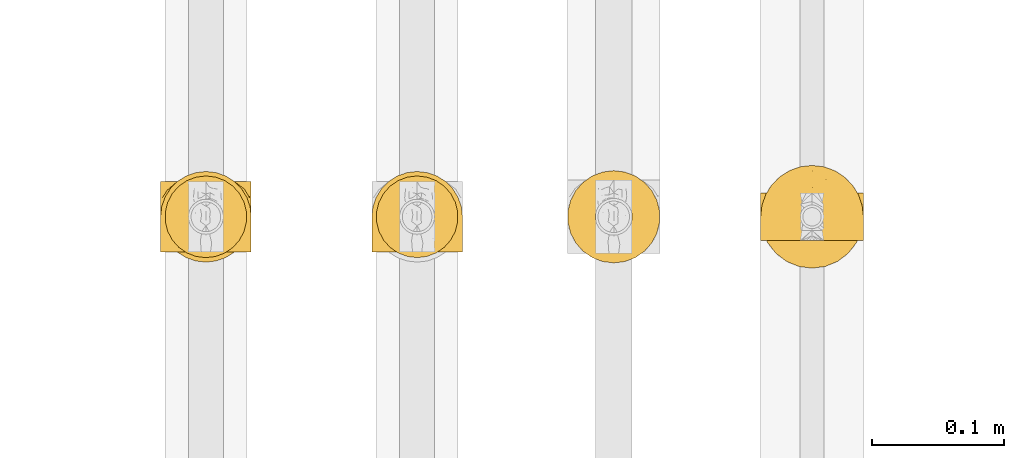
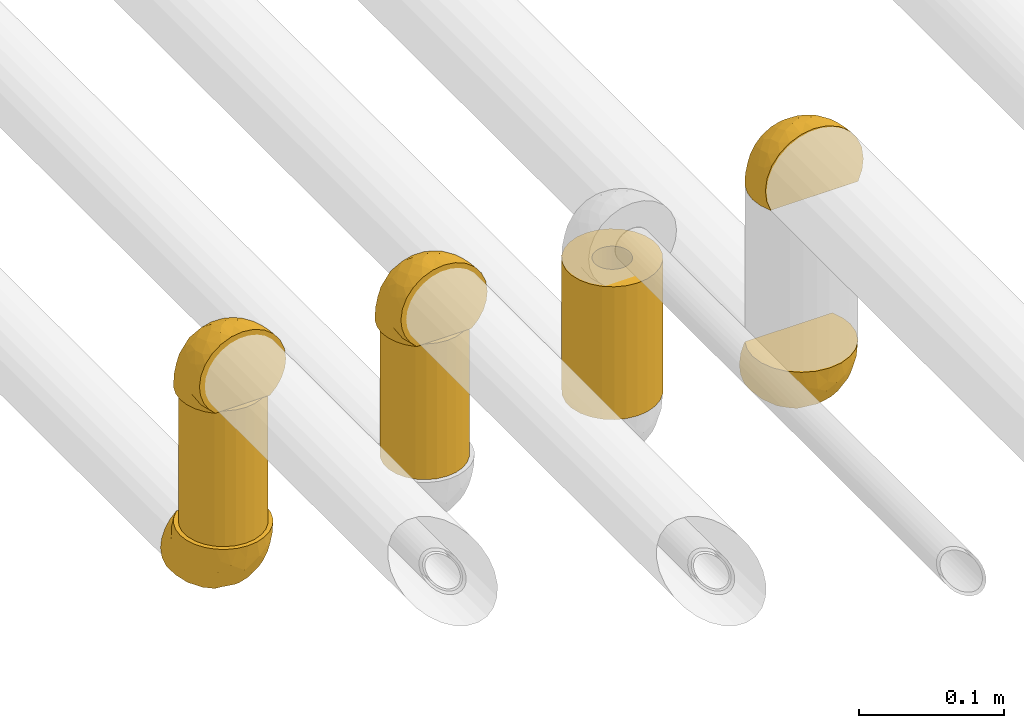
# One storey, part 3 of 83: 8 coverings.
"""IFC2X3 building model written with IfcOpenShell, lengths in millimetres."""

from ifc_helpers import new_model, entity, si_unit, converted_unit, derived_unit, direction, frame, origin_with_axes, origin_2d_with_axis, place, context, subcontext, project, spatial, hollow_circle, extrude, open_shell, surface_model, source, transform, mapped, element, save


model = new_model("IFC2X3")

# Units and contexts
model_context = context("Model", 3, precision=0.01, world=frame((0.0, 4.29681676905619e-09, 0.0)), true_north=direction((4.01073788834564e-13, 1.0)))
plan_context = context("Plan", 3, precision=0.01, world=frame((0.0, 4.29681676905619e-09, 0.0)), true_north=direction((4.01073788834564e-13, 1.0)))
body_context = subcontext(model_context, "Body", "Model", "MODEL_VIEW")
ifc_project = project(units=[converted_unit("PLANEANGLEUNIT", "DEGREE", entity("IfcPositiveLengthMeasure", 0.0174532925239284), si_unit("PLANEANGLEUNIT", "RADIAN"), dimensions=[0, 0, 0, 0, 0, 0, 0]), si_unit("AREAUNIT", "SQUARE_METRE"), si_unit("LENGTHUNIT", "METRE", prefix="MILLI"), si_unit("MASSUNIT", "GRAM", prefix="KILO"), si_unit("POWERUNIT", "WATT"), si_unit("PRESSUREUNIT", "PASCAL"), si_unit("FORCEUNIT", "NEWTON", prefix="KILO"), si_unit("ELECTRICVOLTAGEUNIT", "VOLT"), si_unit("ELECTRICCURRENTUNIT", "AMPERE"), si_unit("THERMODYNAMICTEMPERATUREUNIT", "DEGREE_CELSIUS"), si_unit("TIMEUNIT", "SECOND"), si_unit("VOLUMEUNIT", "CUBIC_METRE"), derived_unit("LINEARVELOCITYUNIT", [(si_unit("LENGTHUNIT", "METRE"), 1), (si_unit("TIMEUNIT", "SECOND"), -1)]), derived_unit("VOLUMETRICFLOWRATEUNIT", [(si_unit("VOLUMEUNIT", "CUBIC_METRE"), 1), (si_unit("TIMEUNIT", "SECOND"), -1)]), derived_unit("THERMALTRANSMITTANCEUNIT", [(si_unit("POWERUNIT", "WATT"), 1), (si_unit("THERMODYNAMICTEMPERATUREUNIT", "KELVIN"), -1), (si_unit("AREAUNIT", "SQUARE_METRE"), -1)]), derived_unit("SOUNDPRESSUREUNIT", [(si_unit("PRESSUREUNIT", "PASCAL"), 1)])], contexts=[model_context, plan_context])

# Site, building, storey
site_placement = place(None, frame((0.0, -4.29681676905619e-09, 0.0), z_axis=(0.0, 0.0, 1.0), x_axis=(1.0, 0.0, 0.0)))
site = spatial("IfcSite", under=ifc_project, at=site_placement, Name="ENGM", CompositionType="ELEMENT")
building_placement = place(site_placement, frame((0.0, 4.29681676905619e-09, 0.0), z_axis=(0.0, 0.0, 1.0), x_axis=(1.0, 0.0, 0.0)))
building = spatial("IfcBuilding", under=site, at=building_placement, Name="TI", CompositionType="ELEMENT")
storey_placement = place(building_placement, frame((0.0, 0.0, 204000.0), z_axis=(0.0, 0.0, 1.0), x_axis=(1.0, 0.0, 0.0)))
storey = spatial("IfcBuildingStorey", under=building, at=storey_placement, Name="Nivå D", CompositionType="ELEMENT", Elevation=204000.0)

# Coverings
shared_shape_1 = source(origin_with_axes(), body_context, "Body", "SurfaceModel", [
    surface_model("IfcShellBasedSurfaceModel", [(26.89082, 26.8, -21.4533), (34.4, 26.8, 0.0), (33.53665, 26.8, -7.65854), (30.99072, 26.8, -14.93103), (-26.583, 26.8, -21.83356), (21.44304, 26.8, -26.899), (14.92062, 26.8, -30.99573), (-14.70935, 26.8, -31.09655), (-21.16359, 26.8, -27.11941), (-7.53901, 26.8, -33.56372), (0.0, 26.8, -34.4), (7.65035, 26.8, -33.53852), (-26.8, 26.583, -21.83356), (-26.8, 21.15599, -27.12534), (-26.8, 14.7018, -31.10012), (-26.8, -8.90338, 33.22785), (-26.8, 26.583, 21.83356), (-26.8, 7.53379, -33.56489), (-26.8, 21.15599, 27.12534), (-26.8, 14.7018, 31.10012), (-26.8, 7.53379, 33.56489), (-26.8, 0.0, 34.4), (-26.8, -29.79127, 17.2), (-26.8, 0.0, -34.4), (-26.8, -8.90338, -33.22785), (-26.8, -17.2, -29.79127), (-26.8, -24.32447, -24.32447), (-26.8, -29.79127, -17.2), (-26.8, -34.4, 0.0), (-26.8, -33.22785, -8.90338), (-26.8, -17.2, 29.79127), (-26.8, -24.32447, 24.32447), (-26.8, -33.22785, 8.90338), (-26.64656, 26.64656, 21.83356), (-26.64656, 26.64656, -21.83356), (-26.583, 26.8, 21.83356), (-3.59052, 13.4, -34.4), (-14.33755, 14.33755, -33.15375), (-20.98278, 20.24865, -29.29104), (-13.4, 3.59052, -34.4), (23.43181, -5.85668, -9.31772), (30.59211, 12.00691, -11.36629), (29.74143, 3.37977, 0.0), (-17.35379, -5.60847, -33.68915), (-10.72157, -3.05952, -33.65653), (-2.19496, -13.46149, -27.70964), (-5.90325, -23.09189, -20.94139), (-14.44362, -19.31464, -27.29136), (-11.50632, -10.12221, -31.78146), (-19.86027, -12.55716, -31.78146), (14.5039, 8.69712, -29.13049), (17.47419, 18.2255, -29.13049), (22.70218, 14.0418, -24.32911), (-8.49526, 8.49526, -34.4), (-1.73573, 4.43438, -33.72277), (-1.40625, 21.55179, -34.4), (21.13117, -4.93531, -15.5496), (-8.95552, -31.11498, -6.38768), (-11.56328, -29.76527, -13.16431), (31.96725, 14.56973, 0.0), (-17.29059, -26.4489, -20.94139), (13.00945, -12.79913, -17.94172), (17.64372, -3.70839, -21.17899), (4.67119, 7.67803, -32.90681), (10.14945, 17.27713, -32.47124), (28.1038, 16.16713, -18.30729), (5.75988, -4.42453, -29.1208), (-1.4374, -2.65193, -32.21392), (20.41295, 4.88172, -23.35949), (24.42026, 4.35073, -18.30729), (16.40522, -14.15163, -10.5905), (-1.3824, -25.73418, -13.68663), (1.8264, -26.29935, -7.71275), (8.10398, -20.63529, -12.38525), (11.69208, -20.10273, -5.98463), (16.47493, -16.47493, 0.0), (23.10818, -6.54758, 0.0), (-14.56973, -31.96725, 0.0), (4.03594, -17.21397, -21.39036), (9.62885, -9.0633, -24.32911), (-21.55179, 1.40625, -34.4), (13.92099, -0.05311, -26.46374), (9.4576, 2.58417, -30.01827), (-3.37977, -29.74143, 0.0), (6.54758, -23.10818, 0.0), (-16.40302, -11.7882, 31.78146), (-8.96499, -31.08424, 6.55564), (10.63139, -19.08757, 11.50781), (23.44486, -5.83859, 9.31385), (22.71205, 14.04293, 24.31983), (28.11122, 16.17091, 18.29685), (26.899, 26.8, 21.44304), (-8.34799, -17.2314, 27.29136), (-13.16926, -25.54575, 20.94139), (1.60724, -19.88713, 20.19204), (14.51664, 8.70018, 29.12392), (17.4853, 18.22796, 29.12392), (10.15899, 17.27639, 32.46794), (17.02293, -8.95279, 17.25897), (-13.98179, -4.14591, 33.74209), (-13.4, 3.59052, 34.4), (-20.1, 1.79526, 34.4), (7.65854, 26.8, 33.53665), (-1.40625, 21.55179, 34.4), (-16.33213, -31.39885, 11.74535), (0.0, 26.8, 34.4), (-18.40196, -20.19695, 27.29136), (14.93103, 26.8, 30.99072), (2.37805, -25.95313, 7.88237), (-5.56785, -27.79838, 13.16431), (30.59671, 12.01158, 11.35688), (1.61546, -9.41417, 28.52205), (-9.49504, -8.67307, 31.98214), (24.43036, 4.35742, 18.29685), (21.4533, 26.8, 26.89082), (30.99573, 26.8, 14.92062), (33.53852, 26.8, 7.65035), (-8.61019, -0.7535, 33.83371), (-2.54483, 2.9265, 33.63096), (-3.59052, 13.4, 34.4), (-8.49526, 8.49526, 34.4), (18.33244, 2.77456, 24.3201), (4.67405, 7.66653, 32.90424), (-20.5196, -5.89205, 33.78227), (9.64914, -9.05591, 24.31984), (7.49925, -1.10027, 29.66678), (2.2383, -14.80321, 24.70771), (-3.35568, -4.38407, 32.15869), (-14.33836, 14.33836, 33.15344), (-20.24021, 20.9835, 29.29463), (-7.52438, 26.8, 33.567), (-14.69425, 26.8, 31.10368), (-21.15177, 26.8, 27.12863)], [open_shell([[[0, 1, 2]], [[0, 2, 3]], [[4, 0, 5]], [[0, 4, 1]], [[4, 5, 6]], [[4, 7, 8]], [[7, 4, 9]], [[10, 9, 4]], [[10, 4, 11]], [[4, 6, 11]], [[12, 13, 14]], [[15, 16, 14]], [[12, 14, 16]], [[14, 17, 15]], [[18, 16, 19]], [[16, 20, 19]], [[20, 16, 21]], [[21, 16, 15]], [[22, 17, 23]], [[24, 25, 26]], [[27, 22, 23]], [[27, 24, 26]], [[28, 27, 29]], [[30, 22, 31]], [[22, 30, 15]], [[22, 28, 32]], [[15, 17, 22]], [[27, 28, 22]], [[23, 24, 27]], [[12, 16, 33]], [[34, 12, 33]], [[35, 4, 33]], [[34, 33, 4]], [[36, 37, 9]], [[14, 38, 37]], [[23, 17, 39]], [[39, 17, 37]], [[14, 13, 38]], [[13, 12, 34]], [[34, 4, 8]], [[37, 38, 7]], [[37, 36, 39]], [[7, 9, 37]], [[9, 10, 36]], [[7, 38, 8]], [[17, 14, 37]], [[34, 8, 38]], [[34, 38, 13]], [[40, 41, 42]], [[43, 39, 44]], [[45, 46, 47]], [[48, 49, 43]], [[50, 51, 52]], [[53, 54, 44]], [[55, 10, 11]], [[41, 40, 56]], [[57, 29, 58]], [[41, 2, 59]], [[60, 27, 26]], [[25, 49, 47]], [[25, 47, 26]], [[27, 60, 58]], [[49, 25, 24]], [[61, 62, 56]], [[63, 36, 64]], [[55, 11, 64]], [[0, 3, 65]], [[52, 5, 0]], [[64, 36, 55]], [[64, 11, 6]], [[51, 64, 6]], [[66, 45, 67]], [[64, 50, 63]], [[68, 69, 62]], [[68, 52, 69]], [[61, 56, 70]], [[57, 71, 72]], [[41, 3, 2]], [[42, 41, 59]], [[69, 65, 41]], [[27, 58, 29]], [[65, 52, 0]], [[73, 74, 72]], [[5, 51, 6]], [[71, 73, 72]], [[75, 40, 76]], [[29, 57, 77]], [[61, 78, 79]], [[44, 54, 67]], [[45, 47, 48]], [[60, 47, 46]], [[24, 23, 80]], [[50, 81, 82]], [[63, 67, 54]], [[2, 1, 59]], [[41, 65, 3]], [[52, 65, 69]], [[52, 51, 5]], [[64, 51, 50]], [[67, 45, 48]], [[45, 79, 78]], [[44, 48, 43]], [[81, 66, 82]], [[77, 57, 83]], [[77, 28, 29]], [[74, 75, 84]], [[84, 83, 72]], [[57, 72, 83]], [[70, 74, 73]], [[84, 72, 74]], [[71, 57, 58]], [[58, 46, 71]], [[78, 71, 46]], [[61, 70, 73]], [[70, 40, 75]], [[73, 71, 78]], [[62, 61, 79]], [[73, 78, 61]], [[45, 78, 46]], [[81, 62, 79]], [[56, 62, 69]], [[66, 81, 79]], [[68, 50, 52]], [[45, 66, 79]], [[82, 67, 63]], [[41, 56, 69]], [[56, 40, 70]], [[62, 81, 68]], [[50, 68, 81]], [[67, 82, 66]], [[63, 54, 36]], [[63, 50, 82]], [[47, 60, 26]], [[58, 60, 46]], [[43, 24, 80]], [[47, 49, 48]], [[24, 43, 49]], [[39, 43, 80]], [[53, 44, 39]], [[67, 48, 44]], [[40, 42, 76]], [[75, 74, 70]], [[36, 54, 53]], [[30, 85, 15]], [[83, 86, 77]], [[87, 75, 88]], [[86, 32, 77]], [[89, 90, 91]], [[92, 93, 94]], [[95, 96, 97]], [[98, 94, 87]], [[99, 100, 101]], [[102, 103, 97]], [[104, 93, 22]], [[102, 105, 103]], [[31, 106, 30]], [[30, 106, 85]], [[107, 102, 97]], [[108, 87, 109]], [[88, 42, 110]], [[92, 111, 112]], [[113, 90, 89]], [[114, 89, 91]], [[32, 86, 104]], [[110, 115, 90]], [[110, 59, 116]], [[114, 107, 96]], [[99, 117, 100]], [[118, 119, 120]], [[121, 113, 89]], [[95, 97, 122]], [[97, 119, 122]], [[115, 110, 116]], [[22, 93, 31]], [[96, 89, 114]], [[88, 110, 113]], [[121, 89, 95]], [[88, 98, 87]], [[115, 91, 90]], [[88, 75, 76]], [[119, 97, 103]], [[85, 99, 123]], [[124, 125, 111]], [[125, 95, 122]], [[94, 93, 109]], [[106, 93, 92]], [[120, 117, 118]], [[125, 124, 121]], [[87, 94, 109]], [[126, 124, 111]], [[108, 109, 86]], [[88, 113, 98]], [[59, 110, 42]], [[59, 1, 116]], [[15, 123, 21]], [[110, 90, 113]], [[97, 96, 107]], [[89, 96, 95]], [[118, 125, 122]], [[117, 120, 100]], [[111, 125, 127]], [[32, 28, 77]], [[84, 108, 83]], [[86, 109, 104]], [[87, 84, 75]], [[83, 108, 86]], [[84, 87, 108]], [[93, 104, 109]], [[22, 32, 104]], [[123, 99, 101]], [[112, 99, 85]], [[121, 98, 113]], [[94, 98, 124]], [[21, 123, 101]], [[85, 123, 15]], [[125, 121, 95]], [[98, 121, 124]], [[112, 111, 127]], [[126, 92, 94]], [[93, 106, 31]], [[85, 106, 92]], [[92, 112, 85]], [[117, 112, 127]], [[112, 117, 99]], [[117, 127, 118]], [[125, 118, 127]], [[119, 118, 122]], [[92, 126, 111]], [[94, 124, 126]], [[76, 42, 88]], [[20, 21, 100]], [[20, 128, 19]], [[19, 128, 129]], [[16, 18, 33]], [[119, 128, 100]], [[119, 105, 130]], [[20, 100, 128]], [[129, 33, 18]], [[129, 128, 131]], [[132, 35, 33]], [[33, 129, 132]], [[19, 129, 18]], [[130, 131, 128]], [[119, 130, 128]], [[131, 132, 129]], [[107, 114, 91]], [[4, 91, 115]], [[107, 91, 102]], [[91, 4, 130]], [[105, 102, 130]], [[102, 91, 130]], [[4, 115, 116]], [[1, 4, 116]], [[130, 132, 131]], [[35, 132, 4]], [[132, 130, 4]]])]),
])
for number, where, z_axis, x_axis in (
    (1, (599571.9743, 696607.72914, 6052.20000000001), (-1.0, 0.0, 0.0), (0.0, -1.0, 0.0)),
    (2, (599571.9743, 696607.72914, 6220.0), (-1.0, 0.0, 0.0), (0.0, 1.0, 0.0)),
    (3, (599732.2743, 696607.72911, 6220.0), (-1.0, 0.0, 0.0), (0.0, 1.0, 0.0)),
):
    element("IfcCovering", number, at=place(storey_placement, frame(where, z_axis=z_axis, x_axis=x_axis)), inside=storey, Name="BI10T - Cellegummi 18-32 mm kalde rør", PredefinedType="INSULATION", context=body_context, shape_type="MappedRepresentation", body=[
        mapped(shared_shape_1, transform((0.0, 0.0, 0.0), scale=1.0)),
    ])
shared_shape_2 = source(origin_with_axes(), body_context, "Body", "SurfaceModel", [
    surface_model("IfcShellBasedSurfaceModel", [(16.92762, 18.0, 35.13482), (24.32205, 18.0, 30.48668), (30.49596, 18.0, 24.31042), (0.0, 18.0, 39.0), (8.68265, 18.0, 38.0212), (-17.65313, 18.0, 34.77595), (-9.0716, 18.0, 37.93028), (-17.65313, 18.0, -34.77595), (38.0212, 18.0, -8.68265), (30.48668, 18.0, -24.32205), (35.13482, 18.0, -16.92762), (16.91582, 18.0, -35.1405), (8.67336, 18.0, -38.02332), (0.0, 18.0, -39.0), (-9.07986, 18.0, -37.9283), (-18.0, 17.65313, 34.77595), (-18.0, 17.65313, -34.77595), (-18.0, 9.07573, -37.92929), (-18.0, 0.0, -39.0), (-18.0, -10.09394, -37.67111), (-18.0, 9.07573, 37.92929), (-18.0, 0.0, 39.0), (-18.0, -19.5, 33.77499), (-18.0, -10.09394, 37.67111), (-18.0, -27.57716, -27.57716), (-18.0, -33.77499, -19.5), (-18.0, -37.67111, -10.09394), (-18.0, -27.57716, 27.57716), (-18.0, -33.77499, 19.5), (-18.0, -37.67111, 10.09394), (-18.0, -39.0, 0.0), (-18.0, -19.5, -33.77499), (-17.75472, 17.75472, 34.77595), (-17.75472, 17.75472, -34.77595), (-10.69693, 8.27754, -38.56024), (-13.43887, 13.4378, -37.25083), (-18.0, 13.87948, -36.16327), (-3.99285, 18.0, -38.52872), (-5.27208, 5.27208, -39.0), (35.07581, 4.32339, -12.8862), (36.44486, 5.15443, 0.0), (-10.74635, -14.11569, -36.0313), (-7.14062, -22.30438, -30.94078), (0.91557, -27.13758, -23.74169), (-9.39098, -30.17764, -23.74169), (-10.11638, -6.44448, -38.23547), (5.42554, -30.40962, -15.51834), (8.91975, -31.09458, -8.81544), (-0.72215, -35.57291, -7.40704), (-3.9434, -34.17081, -14.92465), (11.89905, 10.29643, -36.81332), (18.35467, -18.16043, -20.33964), (22.18548, -9.5792, -24.00244), (26.02833, -11.12519, -17.62569), (-1.55235, 14.25229, -39.0), (28.56689, -12.27186, -10.56569), (-14.25229, 1.55235, -39.0), (24.29328, -1.63402, -26.48413), (28.731, -2.47172, -20.75536), (20.03747, 10.63714, -33.02584), (26.1306, 6.62949, -27.58242), (17.48771, 2.45383, -33.02584), (6.82515, 2.67281, -37.36453), (7.12721, -7.91709, -34.54648), (-0.73871, -3.03295, -37.89712), (24.31042, 18.0, -30.49596), (3.79072, -18.47926, -30.3503), (14.48749, -13.95874, -27.58242), (32.08869, 8.30463, -20.75536), (34.66113, -3.81296, 0.0), (21.99615, -19.90871, -12.00349), (-8.45406, 3.95406, -39.0), (-5.54567, -4.74018, -38.18583), (-11.63604, 2.63604, -39.0), (-3.10471, 10.50457, -39.0), (22.30509, -22.30509, 0.0), (28.48311, -13.05902, 0.0), (14.2339, -25.80417, -14.03794), (17.78336, -25.60215, -6.78283), (9.85809, -21.74688, -24.25823), (-5.15443, -36.44486, 0.0), (12.10287, -2.65598, -34.32848), (17.84887, -5.61422, -29.99364), (39.0, 18.0, 0.0), (-2.79709, -11.20452, -36.0313), (3.81296, -34.66113, 0.0), (13.05902, -28.48311, 0.0), (0.91273, -27.13877, 23.74169), (3.79294, -18.47705, 30.35091), (-7.14148, -22.30461, 30.94078), (-0.72215, -35.57289, 7.40714), (-9.39266, -30.17794, 23.74169), (-3.9445, -34.17111, 14.92465), (35.1405, 18.0, 16.91582), (35.07978, 4.32385, 12.87553), (38.02332, 18.0, 8.67336), (5.42857, -30.40429, 15.52635), (-10.74635, -14.11569, 36.0313), (28.57866, -12.25706, 10.55931), (28.73788, -2.47455, 20.74352), (6.82698, 2.66172, 37.36232), (11.90919, 10.29298, 36.80959), (-3.10471, 10.50457, 39.0), (14.24177, -25.79941, 14.03579), (17.7836, -25.60244, 6.78072), (22.00667, -19.90013, 11.99813), (17.84962, -5.62153, 29.98977), (12.12046, -2.65522, 34.32089), (7.13844, -7.89647, 34.55013), (-0.73859, -3.03309, 37.89708), (-6.03423, -3.68091, 38.40901), (-2.79709, -11.20452, 36.0313), (22.19226, -9.5759, 23.99767), (14.49499, -13.96612, 27.57191), (18.36673, -18.15599, 20.33077), (32.09595, 8.30299, 20.74352), (26.14079, 6.62687, 27.57191), (20.04912, 10.63506, 33.0184), (17.4985, 2.44897, 33.0184), (24.3075, -1.63294, 26.47068), (-10.11638, -6.44448, 38.23547), (-14.25229, 1.55235, 39.0), (9.86568, -21.75613, 24.2432), (-1.55235, 14.25229, 39.0), (8.92002, -31.09382, 8.81775), (-5.27208, 5.27208, 39.0), (-8.45406, 3.95406, 39.0), (-11.63604, 2.63604, 39.0), (25.45146, -12.02518, 17.57382), (-14.54446, 13.3997, 37.02735), (-9.91404, 9.91215, 38.44375), (-18.0, 3.99289, 38.52894), (-13.87942, 18.0, 36.16306)], [open_shell([[[0, 1, 2]], [[3, 4, 5]], [[3, 5, 6]], [[5, 4, 7]], [[7, 8, 9]], [[9, 8, 10]], [[7, 11, 12]], [[7, 13, 14]], [[13, 7, 12]], [[15, 16, 17]], [[18, 19, 17]], [[15, 17, 19]], [[15, 19, 20]], [[20, 19, 21]], [[21, 22, 23]], [[21, 19, 24]], [[24, 25, 21]], [[21, 25, 22]], [[22, 25, 26]], [[27, 22, 28]], [[22, 29, 28]], [[22, 26, 29]], [[26, 30, 29]], [[24, 19, 31]], [[16, 15, 32]], [[33, 16, 32]], [[5, 7, 32]], [[33, 32, 7]], [[34, 35, 14]], [[33, 35, 36]], [[18, 17, 34]], [[33, 7, 35]], [[7, 14, 35]], [[37, 34, 14]], [[17, 36, 35]], [[37, 38, 34]], [[35, 34, 17]], [[16, 33, 36]], [[18, 34, 38]], [[37, 13, 38]], [[39, 8, 40]], [[31, 19, 41]], [[39, 10, 8]], [[42, 43, 44]], [[19, 45, 41]], [[46, 47, 48]], [[48, 26, 49]], [[11, 50, 12]], [[44, 25, 24]], [[24, 31, 42]], [[51, 52, 53]], [[25, 44, 49]], [[12, 54, 13]], [[39, 55, 53]], [[19, 18, 56]], [[57, 58, 52]], [[59, 60, 61]], [[62, 63, 64]], [[11, 59, 50]], [[59, 11, 65]], [[66, 63, 67]], [[60, 65, 9]], [[68, 60, 9]], [[55, 39, 69]], [[57, 60, 58]], [[51, 53, 70]], [[9, 10, 68]], [[43, 42, 66]], [[69, 39, 40]], [[58, 68, 39]], [[25, 49, 26]], [[71, 72, 73]], [[62, 74, 50]], [[50, 54, 12]], [[75, 55, 76]], [[62, 50, 61]], [[77, 78, 47]], [[41, 42, 31]], [[66, 67, 79]], [[46, 77, 47]], [[26, 48, 80]], [[51, 79, 67]], [[73, 72, 45]], [[63, 81, 82]], [[38, 74, 62]], [[8, 83, 40]], [[39, 68, 10]], [[60, 68, 58]], [[60, 59, 65]], [[50, 59, 61]], [[56, 45, 19]], [[42, 41, 84]], [[42, 84, 66]], [[63, 66, 84]], [[84, 45, 72]], [[82, 81, 61]], [[56, 73, 45]], [[38, 64, 71]], [[84, 41, 45]], [[64, 84, 72]], [[62, 64, 38]], [[84, 64, 63]], [[80, 48, 85]], [[80, 30, 26]], [[78, 75, 86]], [[86, 85, 47]], [[48, 47, 85]], [[70, 78, 77]], [[86, 47, 78]], [[46, 48, 49]], [[49, 43, 46]], [[79, 46, 43]], [[51, 70, 77]], [[70, 55, 75]], [[77, 46, 79]], [[52, 51, 67]], [[77, 79, 51]], [[66, 79, 43]], [[82, 52, 67]], [[53, 52, 58]], [[63, 82, 67]], [[57, 61, 60]], [[63, 62, 81]], [[62, 61, 81]], [[39, 53, 58]], [[53, 55, 70]], [[52, 82, 57]], [[61, 57, 82]], [[42, 44, 24]], [[49, 44, 43]], [[50, 74, 54]], [[55, 69, 76]], [[75, 78, 70]], [[71, 64, 72]], [[87, 88, 89]], [[85, 90, 80]], [[91, 92, 87]], [[93, 94, 95]], [[28, 29, 92]], [[90, 96, 92]], [[23, 22, 97]], [[98, 94, 99]], [[100, 101, 102]], [[101, 0, 4]], [[103, 104, 105]], [[22, 27, 89]], [[106, 107, 108]], [[109, 110, 111]], [[27, 28, 91]], [[112, 113, 114]], [[99, 115, 116]], [[1, 116, 2]], [[27, 91, 89]], [[94, 93, 115]], [[94, 40, 95]], [[1, 0, 117]], [[118, 106, 119]], [[118, 101, 100]], [[101, 118, 117]], [[98, 69, 94]], [[106, 113, 112]], [[23, 120, 121]], [[114, 122, 103]], [[88, 108, 111]], [[23, 121, 21]], [[117, 116, 1]], [[75, 98, 105]], [[93, 2, 115]], [[4, 123, 101]], [[116, 115, 2]], [[98, 75, 76]], [[29, 80, 90]], [[90, 124, 96]], [[85, 86, 124]], [[103, 105, 114]], [[87, 122, 88]], [[97, 89, 111]], [[102, 125, 100]], [[109, 126, 110]], [[40, 94, 69]], [[40, 83, 95]], [[94, 115, 99]], [[101, 117, 0]], [[116, 117, 118]], [[89, 97, 22]], [[120, 23, 97]], [[108, 88, 113]], [[111, 89, 88]], [[108, 113, 106]], [[109, 100, 125]], [[121, 120, 127]], [[97, 111, 120]], [[109, 111, 108]], [[126, 109, 125]], [[120, 110, 127]], [[100, 109, 108]], [[29, 30, 80]], [[104, 124, 86]], [[29, 90, 92]], [[105, 104, 75]], [[75, 104, 86]], [[124, 104, 103]], [[124, 103, 96]], [[124, 90, 85]], [[122, 96, 103]], [[87, 92, 96]], [[127, 110, 126]], [[112, 128, 99]], [[105, 98, 128]], [[122, 114, 113]], [[128, 112, 114]], [[99, 116, 119]], [[119, 112, 99]], [[106, 118, 107]], [[118, 100, 107]], [[100, 108, 107]], [[88, 122, 113]], [[122, 87, 96]], [[105, 128, 114]], [[99, 128, 98]], [[118, 119, 116]], [[106, 112, 119]], [[92, 91, 28]], [[89, 91, 87]], [[123, 4, 3]], [[123, 102, 101]], [[76, 69, 98]], [[111, 110, 120]], [[129, 130, 6]], [[125, 130, 131]], [[15, 20, 129]], [[125, 3, 130]], [[3, 6, 130]], [[132, 129, 6]], [[20, 131, 130]], [[132, 32, 129]], [[130, 129, 20]], [[21, 125, 131]], [[15, 129, 32]], [[132, 5, 32]], [[11, 7, 65]], [[7, 9, 65]], [[8, 95, 83]], [[0, 2, 93]], [[93, 7, 4]], [[4, 0, 93]], [[93, 95, 7]], [[95, 8, 7]]])]),
])
covering_1_placement = place(storey_placement, frame((600031.9743, 696607.72914, 6052.20000000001), z_axis=(1.0, 0.0, 0.0), x_axis=(0.0, 0.0, -1.0)))
element("IfcCovering", 4, at=covering_1_placement, inside=storey, Name="BI16T - Rørskål m/Al.folie - VV 40mm", PredefinedType="INSULATION", context=body_context, shape_type="MappedRepresentation", body=[
    mapped(shared_shape_2, transform((0.0, 0.0, 0.0), scale=1.0)),
])
shared_shape_3 = source(origin_with_axes(), body_context, "Body", "SurfaceModel", [
    surface_model("IfcShellBasedSurfaceModel", [(16.92762, 18.0, 35.13482), (24.32205, 18.0, 30.48668), (30.49596, 18.0, 24.31042), (-17.65313, 18.0, -34.77595), (8.68265, 18.0, 38.0212), (35.1405, 18.0, 16.91582), (0.0, 18.0, 39.0), (-17.65313, 18.0, 34.77595), (-9.0716, 18.0, 37.93028), (38.02332, 18.0, 8.67336), (39.0, 18.0, 0.0), (38.0212, 18.0, -8.68265), (30.48668, 18.0, -24.32205), (35.13482, 18.0, -16.92762), (16.91582, 18.0, -35.1405), (24.31042, 18.0, -30.49596), (8.67336, 18.0, -38.02332), (0.0, 18.0, -39.0), (-9.07986, 18.0, -37.9283), (-18.0, 17.65313, 34.77595), (-18.0, 17.65313, -34.77595), (-18.0, 9.07573, -37.92929), (-18.0, 0.0, -39.0), (-18.0, -10.09394, -37.67111), (-18.0, 9.07573, 37.92929), (-18.0, 0.0, 39.0), (-18.0, -19.5, 33.77499), (-18.0, -10.09394, 37.67111), (-18.0, -27.57716, -27.57716), (-18.0, -33.77499, -19.5), (-18.0, -37.67111, -10.09394), (-18.0, -27.57716, 27.57716), (-18.0, -33.77499, 19.5), (-18.0, -37.67111, 10.09394), (-18.0, -39.0, 0.0), (-18.0, -19.5, -33.77499), (-17.75472, 17.75472, 34.77595), (-17.75472, 17.75472, -34.77595), (-10.69693, 8.27754, -38.56024), (-13.43887, 13.4378, -37.25083), (-18.0, 13.87948, -36.16327), (-3.99285, 18.0, -38.52872), (-5.27208, 5.27208, -39.0), (35.07581, 4.32339, -12.8862), (36.44486, 5.15443, 0.0), (-10.74635, -14.11569, -36.0313), (-7.14062, -22.30438, -30.94078), (0.91557, -27.13758, -23.74169), (-9.39098, -30.17764, -23.74169), (-10.11638, -6.44448, -38.23547), (5.42554, -30.40962, -15.51834), (8.91975, -31.09458, -8.81544), (-0.72215, -35.57291, -7.40704), (-3.9434, -34.17081, -14.92465), (11.89905, 10.29643, -36.81332), (18.35467, -18.16043, -20.33964), (22.18548, -9.5792, -24.00244), (26.02833, -11.12519, -17.62569), (-1.55235, 14.25229, -39.0), (28.56689, -12.27186, -10.56569), (-14.25229, 1.55235, -39.0), (24.29328, -1.63402, -26.48413), (28.731, -2.47172, -20.75536), (20.03747, 10.63714, -33.02584), (26.1306, 6.62949, -27.58242), (17.48771, 2.45383, -33.02584), (6.82515, 2.67281, -37.36453), (7.12721, -7.91709, -34.54648), (-0.73871, -3.03295, -37.89712), (3.79072, -18.47926, -30.3503), (14.48749, -13.95874, -27.58242), (32.08869, 8.30463, -20.75536), (34.66113, -3.81296, 0.0), (21.99615, -19.90871, -12.00349), (-8.45406, 3.95406, -39.0), (-5.54567, -4.74018, -38.18583), (-11.63604, 2.63604, -39.0), (-3.10471, 10.50457, -39.0), (22.30509, -22.30509, 0.0), (28.48311, -13.05902, 0.0), (14.2339, -25.80417, -14.03794), (17.78336, -25.60215, -6.78283), (9.85809, -21.74688, -24.25823), (-5.15443, -36.44486, 0.0), (12.10287, -2.65598, -34.32848), (17.84887, -5.61422, -29.99364), (-2.79709, -11.20452, -36.0313), (3.81296, -34.66113, 0.0), (13.05902, -28.48311, 0.0), (0.91273, -27.13877, 23.74169), (3.79294, -18.47705, 30.35091), (-7.14148, -22.30461, 30.94078), (-0.72215, -35.57289, 7.40714), (-9.39266, -30.17794, 23.74169), (-3.9445, -34.17111, 14.92465), (35.07978, 4.32385, 12.87553), (5.42857, -30.40429, 15.52635), (-10.74635, -14.11569, 36.0313), (28.57866, -12.25706, 10.55931), (28.73788, -2.47455, 20.74352), (6.82698, 2.66172, 37.36232), (11.90919, 10.29298, 36.80959), (-3.10471, 10.50457, 39.0), (14.24177, -25.79941, 14.03579), (17.7836, -25.60244, 6.78072), (22.00667, -19.90013, 11.99813), (17.84962, -5.62153, 29.98977), (12.12046, -2.65522, 34.32089), (7.13844, -7.89647, 34.55013), (-0.73859, -3.03309, 37.89708), (-6.03423, -3.68091, 38.40901), (-2.79709, -11.20452, 36.0313), (22.19226, -9.5759, 23.99767), (14.49499, -13.96612, 27.57191), (18.36673, -18.15599, 20.33077), (32.09595, 8.30299, 20.74352), (26.14079, 6.62687, 27.57191), (20.04912, 10.63506, 33.0184), (17.4985, 2.44897, 33.0184), (24.3075, -1.63294, 26.47068), (-10.11638, -6.44448, 38.23547), (-14.25229, 1.55235, 39.0), (9.86568, -21.75613, 24.2432), (-1.55235, 14.25229, 39.0), (8.92002, -31.09382, 8.81775), (-5.27208, 5.27208, 39.0), (-8.45406, 3.95406, 39.0), (-11.63604, 2.63604, 39.0), (25.45146, -12.02518, 17.57382), (-14.54446, 13.3997, 37.02735), (-9.91404, 9.91215, 38.44375), (-18.0, 3.99289, 38.52894), (-13.87942, 18.0, 36.16306)], [open_shell([[[0, 1, 2]], [[2, 3, 4]], [[5, 3, 2]], [[6, 4, 7]], [[6, 7, 8]], [[4, 0, 2]], [[7, 4, 3]], [[5, 9, 10]], [[5, 11, 3]], [[3, 11, 12]], [[12, 11, 13]], [[14, 12, 15]], [[3, 14, 16]], [[14, 3, 12]], [[3, 17, 18]], [[17, 3, 16]], [[11, 5, 10]], [[19, 20, 21]], [[22, 23, 21]], [[19, 21, 23]], [[19, 23, 24]], [[24, 23, 25]], [[25, 26, 27]], [[25, 23, 28]], [[28, 29, 25]], [[25, 29, 26]], [[26, 29, 30]], [[31, 26, 32]], [[26, 33, 32]], [[26, 30, 33]], [[30, 34, 33]], [[28, 23, 35]], [[20, 19, 36]], [[37, 20, 36]], [[7, 3, 36]], [[37, 36, 3]], [[38, 39, 18]], [[37, 39, 40]], [[22, 21, 38]], [[37, 3, 39]], [[3, 18, 39]], [[41, 38, 18]], [[21, 40, 39]], [[41, 42, 38]], [[39, 38, 21]], [[20, 37, 40]], [[22, 38, 42]], [[41, 17, 42]], [[43, 11, 44]], [[35, 23, 45]], [[43, 13, 11]], [[46, 47, 48]], [[23, 49, 45]], [[50, 51, 52]], [[52, 30, 53]], [[14, 54, 16]], [[48, 29, 28]], [[28, 35, 46]], [[55, 56, 57]], [[29, 48, 53]], [[16, 58, 17]], [[43, 59, 57]], [[23, 22, 60]], [[61, 62, 56]], [[63, 64, 65]], [[66, 67, 68]], [[14, 63, 54]], [[63, 14, 15]], [[69, 67, 70]], [[64, 15, 12]], [[71, 64, 12]], [[59, 43, 72]], [[61, 64, 62]], [[55, 57, 73]], [[12, 13, 71]], [[47, 46, 69]], [[72, 43, 44]], [[62, 71, 43]], [[29, 53, 30]], [[74, 75, 76]], [[66, 77, 54]], [[54, 58, 16]], [[78, 59, 79]], [[66, 54, 65]], [[80, 81, 51]], [[45, 46, 35]], [[69, 70, 82]], [[50, 80, 51]], [[30, 52, 83]], [[55, 82, 70]], [[76, 75, 49]], [[67, 84, 85]], [[42, 77, 66]], [[11, 10, 44]], [[43, 71, 13]], [[64, 71, 62]], [[64, 63, 15]], [[54, 63, 65]], [[60, 49, 23]], [[46, 45, 86]], [[46, 86, 69]], [[67, 69, 86]], [[86, 49, 75]], [[85, 84, 65]], [[60, 76, 49]], [[42, 68, 74]], [[86, 45, 49]], [[68, 86, 75]], [[66, 68, 42]], [[86, 68, 67]], [[83, 52, 87]], [[83, 34, 30]], [[81, 78, 88]], [[88, 87, 51]], [[52, 51, 87]], [[73, 81, 80]], [[88, 51, 81]], [[50, 52, 53]], [[53, 47, 50]], [[82, 50, 47]], [[55, 73, 80]], [[73, 59, 78]], [[80, 50, 82]], [[56, 55, 70]], [[80, 82, 55]], [[69, 82, 47]], [[85, 56, 70]], [[57, 56, 62]], [[67, 85, 70]], [[61, 65, 64]], [[67, 66, 84]], [[66, 65, 84]], [[43, 57, 62]], [[57, 59, 73]], [[56, 85, 61]], [[65, 61, 85]], [[46, 48, 28]], [[53, 48, 47]], [[54, 77, 58]], [[59, 72, 79]], [[78, 81, 73]], [[74, 68, 75]], [[89, 90, 91]], [[87, 92, 83]], [[93, 94, 89]], [[5, 95, 9]], [[32, 33, 94]], [[92, 96, 94]], [[27, 26, 97]], [[98, 95, 99]], [[100, 101, 102]], [[101, 0, 4]], [[103, 104, 105]], [[26, 31, 91]], [[106, 107, 108]], [[109, 110, 111]], [[31, 32, 93]], [[112, 113, 114]], [[99, 115, 116]], [[1, 116, 2]], [[31, 93, 91]], [[95, 5, 115]], [[95, 44, 9]], [[1, 0, 117]], [[118, 106, 119]], [[118, 101, 100]], [[101, 118, 117]], [[98, 72, 95]], [[106, 113, 112]], [[27, 120, 121]], [[114, 122, 103]], [[90, 108, 111]], [[27, 121, 25]], [[117, 116, 1]], [[78, 98, 105]], [[5, 2, 115]], [[4, 123, 101]], [[116, 115, 2]], [[98, 78, 79]], [[33, 83, 92]], [[92, 124, 96]], [[87, 88, 124]], [[103, 105, 114]], [[89, 122, 90]], [[97, 91, 111]], [[102, 125, 100]], [[109, 126, 110]], [[44, 95, 72]], [[44, 10, 9]], [[95, 115, 99]], [[101, 117, 0]], [[116, 117, 118]], [[91, 97, 26]], [[120, 27, 97]], [[108, 90, 113]], [[111, 91, 90]], [[108, 113, 106]], [[109, 100, 125]], [[121, 120, 127]], [[97, 111, 120]], [[109, 111, 108]], [[126, 109, 125]], [[120, 110, 127]], [[100, 109, 108]], [[33, 34, 83]], [[104, 124, 88]], [[33, 92, 94]], [[105, 104, 78]], [[78, 104, 88]], [[124, 104, 103]], [[124, 103, 96]], [[124, 92, 87]], [[122, 96, 103]], [[89, 94, 96]], [[127, 110, 126]], [[112, 128, 99]], [[105, 98, 128]], [[122, 114, 113]], [[128, 112, 114]], [[99, 116, 119]], [[119, 112, 99]], [[106, 118, 107]], [[118, 100, 107]], [[100, 108, 107]], [[90, 122, 113]], [[122, 89, 96]], [[105, 128, 114]], [[99, 128, 98]], [[118, 119, 116]], [[106, 112, 119]], [[94, 93, 32]], [[91, 93, 89]], [[123, 4, 6]], [[123, 102, 101]], [[79, 72, 98]], [[111, 110, 120]], [[129, 130, 8]], [[125, 130, 131]], [[19, 24, 129]], [[125, 6, 130]], [[6, 8, 130]], [[132, 129, 8]], [[24, 131, 130]], [[132, 36, 129]], [[130, 129, 24]], [[25, 125, 131]], [[19, 129, 36]], [[132, 7, 36]]])]),
])
covering_2_placement = place(storey_placement, frame((600031.9743, 696607.72914, 6220.0), z_axis=(-1.0, 0.0, 0.0), x_axis=(0.0, 1.0, 0.0)))
element("IfcCovering", 5, at=covering_2_placement, inside=storey, Name="BI16T - Rørskål m/Al.folie - VV 40mm", PredefinedType="INSULATION", context=body_context, shape_type="MappedRepresentation", body=[
    mapped(shared_shape_3, transform((0.0, 0.0, 0.0), scale=1.0)),
])
shared_shape_4 = source(origin_with_axes(), body_context, "Body", "SweptSolid", [
    extrude(hollow_circle(Radius=35.0, WallThickness=21.0, at=origin_2d_with_axis()), frame((0.0, 0.0, 0.0), z_axis=(1.0, 0.0, 0.0), x_axis=(0.0, 1.0, 0.0)), (0.0, 0.0, 1.0), 111.8),
])
covering_3_placement = place(storey_placement, frame((599881.50429, 696607.72899, 6080.18208), z_axis=(-1.0, 0.0, 0.0), x_axis=(0.0, 0.0, 1.0)))
element("IfcCovering", 6, at=covering_3_placement, inside=storey, Name="BI15T - Cellegummi KV 15mm", PredefinedType="INSULATION", context=body_context, shape_type="MappedRepresentation", body=[
    mapped(shared_shape_4, transform((0.0, 0.0, 0.0), scale=1.0)),
])
shared_shape_5 = source(origin_with_axes(), body_context, "Body", "SweptSolid", [
    extrude(hollow_circle(Radius=31.0, WallThickness=21.0, at=origin_2d_with_axis()), frame((0.0, 0.0, 0.0), z_axis=(1.0, 0.0, 0.0), x_axis=(0.0, 1.0, 0.0)), (0.0, 0.0, 1.0), 114.2),
])
for number, where, z_axis, x_axis in (
    (7, (599571.9743, 696607.72914, 6079.0), (-1.0, 0.0, 0.0), (0.0, 0.0, 1.0)),
    (8, (599732.2743, 696607.72915, 6079.20415999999), (-1.0, 0.0, 0.0), (0.0, 0.0, 1.0)),
):
    element("IfcCovering", number, at=place(storey_placement, frame(where, z_axis=z_axis, x_axis=x_axis)), inside=storey, Name="BI10T - Cellegummi 18-32 mm kalde rør", PredefinedType="INSULATION", context=body_context, shape_type="MappedRepresentation", body=[
        mapped(shared_shape_5, transform((0.0, 0.0, 0.0), scale=1.0)),
    ])

save(model, "model.ifc")
